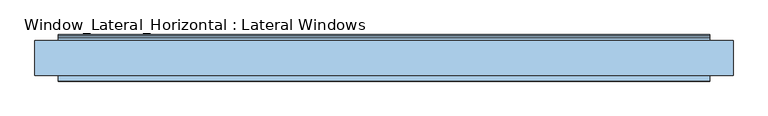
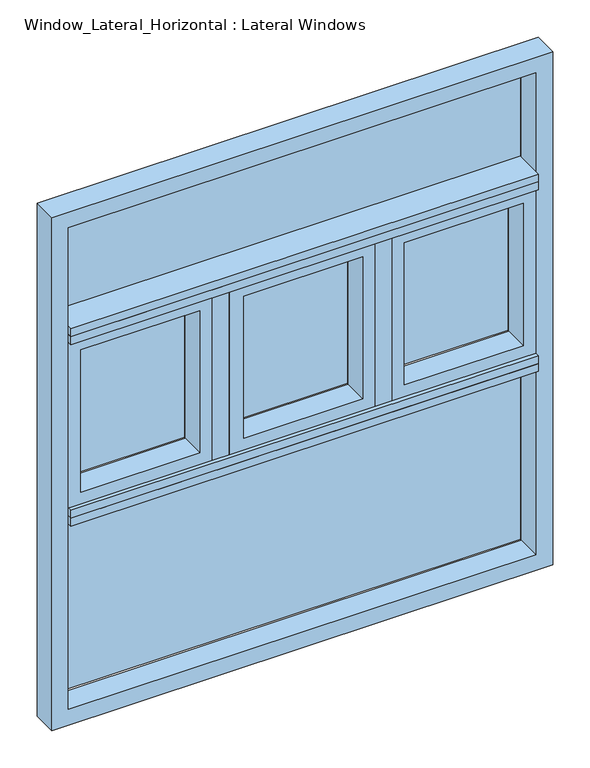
"""IFC4 building model written with IfcOpenShell, lengths in millimetres: window geometry, Window_Lateral_Horizontal : Lateral Windows."""

from ifc_helpers import new_model, si_unit, frame, origin, place, context, project, spatial, polyline, outline, extrude, source, transform, mapped, element, save


def window_lateral_horizontal_lateral_windows_836d6a86(model_context):
    return source(origin(), model_context, "Body", "SweptSolid", [
        extrude(outline(polyline([(4216.4, 1524.0), (4216.4, -1524.0), (914.4, -1524.0), (914.4, 1524.0), (4216.4, 1524.0)]), holes=[polyline([(1016.0, 1422.4), (1016.0, -1422.4), (4114.8, -1422.4), (4114.8, 1422.4), (1016.0, 1422.4)])]), frame((0.0, -76.2, 0.0), z_axis=(0.0, 1.0, 0.0), x_axis=(0.0, 0.0, 1.0)), (0.0, 0.0, 1.0), 152.4),
        extrude(outline(polyline([(-1422.4, -101.6), (-1422.4, 101.6), (1422.4, 101.6), (1422.4, -101.6), (-1422.4, -101.6)])), frame((0.0, 0.0, 3378.2), z_axis=(0.0, 0.0, 1.0), x_axis=(1.0, 0.0, 0.0)), (0.0, 0.0, 1.0), 50.8),
        extrude(outline(polyline([(-1422.4, -101.6), (-1422.4, 101.6), (1422.4, 101.6), (1422.4, -101.6), (-1422.4, -101.6)])), frame((0.0, 0.0, 2209.8), z_axis=(0.0, 0.0, 1.0), x_axis=(1.0, 0.0, 0.0)), (0.0, 0.0, 1.0), 50.8),
        extrude(outline(polyline([(-1422.4, -101.6), (-1422.4, 101.6), (1422.4, 101.6), (1422.4, -101.6), (-1422.4, -101.6)])), frame((0.0, 0.0, 3429.0), z_axis=(0.0, 0.0, 1.0), x_axis=(1.0, 0.0, 0.0)), (0.0, 0.0, 1.0), 50.8),
        extrude(outline(polyline([(-1422.4, -101.6), (-1422.4, 101.6), (1422.4, 101.6), (1422.4, -101.6), (-1422.4, -101.6)])), frame((0.0, 0.0, 2260.6), z_axis=(0.0, 0.0, 1.0), x_axis=(1.0, 0.0, 0.0)), (0.0, 0.0, 1.0), 50.8),
        extrude(outline(polyline([(546.3453728, -76.2), (444.7453728, -76.2), (444.7453728, 76.2), (546.3453728, 76.2), (546.3453728, -76.2)])), frame((0.0, 0.0, 2311.4), z_axis=(0.0, 0.0, 1.0), x_axis=(1.0, 0.0, 0.0)), (0.0, 0.0, 1.0), 1066.8),
        extrude(outline(polyline([(-444.7453728, -76.2), (-546.3453728, -76.2), (-546.3453728, 76.2), (-444.7453728, 76.2), (-444.7453728, -76.2)])), frame((0.0, 0.0, 2311.4), z_axis=(0.0, 0.0, 1.0), x_axis=(1.0, 0.0, 0.0)), (0.0, 0.0, 1.0), 1066.8),
        extrude(outline(polyline([(3378.2, 1422.4), (3378.2, 546.3453728), (2311.4, 546.3453728), (2311.4, 1422.4), (3378.2, 1422.4)]), holes=[polyline([(3302.0, 1346.2), (2387.6, 1346.2), (2387.6, 622.5453728), (3302.0, 622.5453728), (3302.0, 1346.2)])]), frame((0.0, -76.2, 0.0), z_axis=(0.0, 1.0, 0.0), x_axis=(0.0, 0.0, 1.0)), (0.0, 0.0, 1.0), 152.4),
        extrude(outline(polyline([(3378.2, 444.7453728), (3378.2, -444.7453728), (2311.4, -444.7453728), (2311.4, 444.7453728), (3378.2, 444.7453728)]), holes=[polyline([(3302.0, 368.5453728), (2387.6, 368.5453728), (2387.6, -355.1092545), (3302.0, -355.1092545), (3302.0, 368.5453728)])]), frame((0.0, -76.2, 0.0), z_axis=(0.0, 1.0, 0.0), x_axis=(0.0, 0.0, 1.0)), (0.0, 0.0, 1.0), 152.4),
        extrude(outline(polyline([(3378.2, -546.3453728), (3378.2, -1422.4), (2311.4, -1422.4), (2311.4, -546.3453728), (3378.2, -546.3453728)]), holes=[polyline([(3302.0, -622.5453728), (2387.6, -622.5453728), (2387.6, -1346.2), (3302.0, -1346.2), (3302.0, -622.5453728)])]), frame((0.0, -76.2, 0.0), z_axis=(0.0, 1.0, 0.0), x_axis=(0.0, 0.0, 1.0)), (0.0, 0.0, 1.0), 152.4),
        extrude(outline(polyline([(1422.4, 95.25), (1422.4, 88.9), (-1422.4, 88.9), (-1422.4, 95.25), (1422.4, 95.25)])), frame((0.0, 0.0, 3479.8), z_axis=(0.0, 0.0, 1.0), x_axis=(1.0, 0.0, 0.0)), (0.0, 0.0, 1.0), 635.0),
        extrude(outline(polyline([(-622.5453728, 95.25), (-622.5453728, 88.9), (-1346.2, 88.9), (-1346.2, 95.25), (-622.5453728, 95.25)])), frame((0.0, 0.0, 2387.6), z_axis=(0.0, 0.0, 1.0), x_axis=(1.0, 0.0, 0.0)), (0.0, 0.0, 1.0), 914.4),
        extrude(outline(polyline([(368.5453728, 95.25), (368.5453728, 88.9), (-355.1092545, 88.9), (-355.1092545, 95.25), (368.5453728, 95.25)])), frame((0.0, 0.0, 2387.6), z_axis=(0.0, 0.0, 1.0), x_axis=(1.0, 0.0, 0.0)), (0.0, 0.0, 1.0), 914.4),
        extrude(outline(polyline([(1346.2, 95.25), (1346.2, 88.9), (622.5453728, 88.9), (622.5453728, 95.25), (1346.2, 95.25)])), frame((0.0, 0.0, 2387.6), z_axis=(0.0, 0.0, 1.0), x_axis=(1.0, 0.0, 0.0)), (0.0, 0.0, 1.0), 914.4),
        extrude(outline(polyline([(1422.4, 95.25), (1422.4, 88.9), (-1422.4, 88.9), (-1422.4, 95.25), (1422.4, 95.25)])), frame((0.0, 0.0, 1016.0), z_axis=(0.0, 0.0, 1.0), x_axis=(1.0, 0.0, 0.0)), (0.0, 0.0, 1.0), 1193.8),
    ])


if __name__ == "__main__":
    model = new_model("IFC4")
    model_context = context("Model", 3, world=origin())
    ifc_project = project(units=[si_unit("LENGTHUNIT", "METRE", prefix="MILLI")], contexts=[model_context])
    site = spatial("IfcSite", under=ifc_project)
    building = spatial("IfcBuilding", under=site)
    placement = place(None, origin())
    window_lateral_horizontal_lateral_windows_shape = window_lateral_horizontal_lateral_windows_836d6a86(model_context)
    element("IfcWindow", 1, ObjectType="Window_Lateral_Horizontal : Lateral Windows", at=placement, inside=building, context=model_context, shape_type="MappedRepresentation", body=[
        mapped(window_lateral_horizontal_lateral_windows_shape, transform((0.0, 0.0, 0.0), x_axis=(1.0, 0.0, 0.0), y_axis=(0.0, 1.0, 0.0), z_axis=(0.0, 0.0, 1.0))),
    ])
    save(model, "model.ifc")
